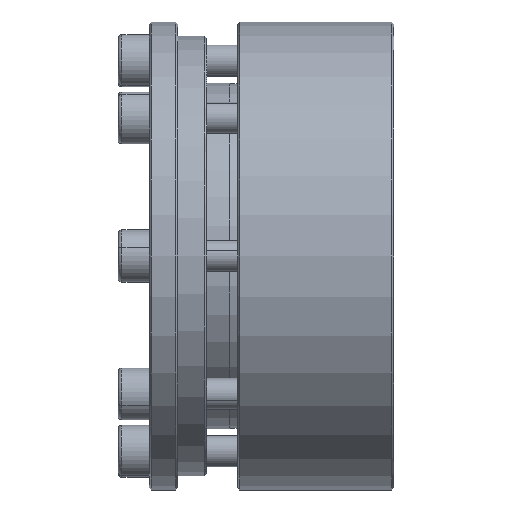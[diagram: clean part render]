
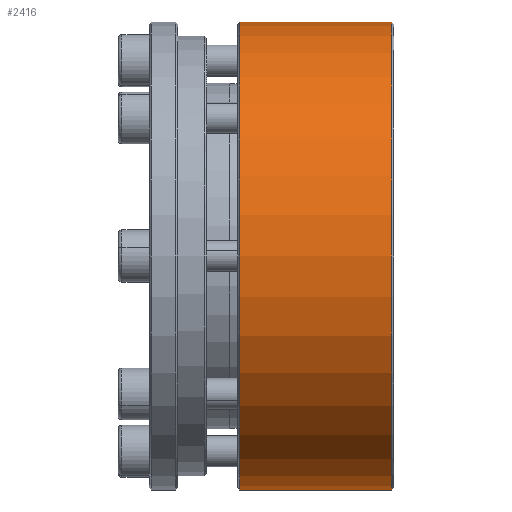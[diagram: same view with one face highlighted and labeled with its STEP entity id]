
A CAD part, front view. The second image highlights one B-rep face of the part: STEP entity #2416.
In plain terms, the highlighted cylindrical face has radius 44.95 mm (diameter 89.9 mm), a partial arc.
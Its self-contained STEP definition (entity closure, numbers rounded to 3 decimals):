
#109 = EDGE_CURVE ( 'NONE', #3983, #3757, #885, .T. ) ;
#323 = CARTESIAN_POINT ( 'NONE',  ( -88.366, 26.04, 44.95 ) ) ;
#502 = AXIS2_PLACEMENT_3D ( 'NONE', #7748, #3065, #3849 ) ;
#761 = LINE ( 'NONE', #897, #931 ) ;
#885 = CIRCLE ( 'NONE', #7376, 44.95 ) ;
#897 = CARTESIAN_POINT ( 'NONE',  ( -88.766, 26.04, 44.95 ) ) ;
#931 = VECTOR ( 'NONE', #2882, 1000. ) ;
#1009 = VECTOR ( 'NONE', #8330, 1000. ) ;
#1095 = EDGE_CURVE ( 'NONE', #5554, #3983, #761, .T. ) ;
#1918 = ORIENTED_EDGE ( 'NONE', *, *, #1095, .T. ) ;
#2275 = EDGE_CURVE ( 'NONE', #4657, #3757, #2886, .T. ) ;
#2416 = ADVANCED_FACE ( 'NONE', ( #3318 ), #8087, .T. ) ;
#2706 = ORIENTED_EDGE ( 'NONE', *, *, #2275, .F. ) ;
#2882 = DIRECTION ( 'NONE',  ( -1., 0., 0. ) ) ;
#2886 = LINE ( 'NONE', #5668, #1009 ) ;
#3065 = DIRECTION ( 'NONE',  ( -1., 0., 0. ) ) ;
#3318 = FACE_OUTER_BOUND ( 'NONE', #8697, .T. ) ;
#3496 = DIRECTION ( 'NONE',  ( -1., 0., 0. ) ) ;
#3756 = CARTESIAN_POINT ( 'NONE',  ( -88.366, 26.04, -44.95 ) ) ;
#3757 = VERTEX_POINT ( 'NONE', #3756 ) ;
#3849 = DIRECTION ( 'NONE',  ( 0., 0., 1. ) ) ;
#3983 = VERTEX_POINT ( 'NONE', #323 ) ;
#4546 = EDGE_CURVE ( 'NONE', #4657, #5554, #7847, .T. ) ;
#4592 = CARTESIAN_POINT ( 'NONE',  ( -59.166, 26.04, -44.95 ) ) ;
#4657 = VERTEX_POINT ( 'NONE', #4592 ) ;
#5331 = DIRECTION ( 'NONE',  ( 0., 0., -1. ) ) ;
#5523 = CARTESIAN_POINT ( 'NONE',  ( -88.766, 26.04, 0. ) ) ;
#5554 = VERTEX_POINT ( 'NONE', #7320 ) ;
#5668 = CARTESIAN_POINT ( 'NONE',  ( -88.766, 26.04, -44.95 ) ) ;
#5963 = ORIENTED_EDGE ( 'NONE', *, *, #4546, .T. ) ;
#6078 = AXIS2_PLACEMENT_3D ( 'NONE', #5523, #3496, #8754 ) ;
#6714 = DIRECTION ( 'NONE',  ( 1., 0., 0. ) ) ;
#6755 = CARTESIAN_POINT ( 'NONE',  ( -88.366, 26.04, 0. ) ) ;
#7320 = CARTESIAN_POINT ( 'NONE',  ( -59.166, 26.04, 44.95 ) ) ;
#7329 = ORIENTED_EDGE ( 'NONE', *, *, #109, .T. ) ;
#7376 = AXIS2_PLACEMENT_3D ( 'NONE', #6755, #6714, #5331 ) ;
#7748 = CARTESIAN_POINT ( 'NONE',  ( -59.166, 26.04, 0. ) ) ;
#7847 = CIRCLE ( 'NONE', #502, 44.95 ) ;
#8087 = CYLINDRICAL_SURFACE ( 'NONE', #6078, 44.95 ) ;
#8330 = DIRECTION ( 'NONE',  ( -1., 0., 0. ) ) ;
#8697 = EDGE_LOOP ( 'NONE', ( #2706, #5963, #1918, #7329 ) ) ;
#8754 = DIRECTION ( 'NONE',  ( 0., 0., 1. ) ) ;
